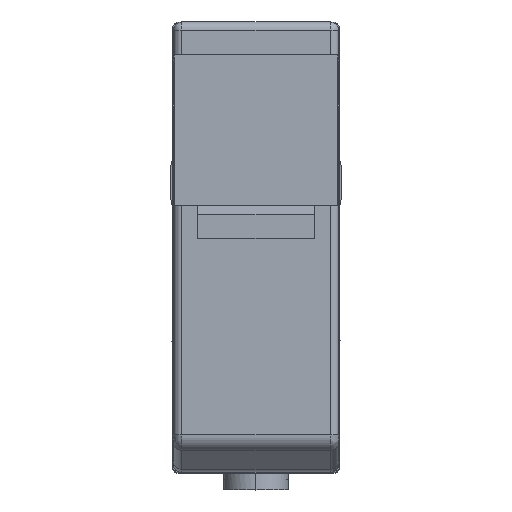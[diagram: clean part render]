
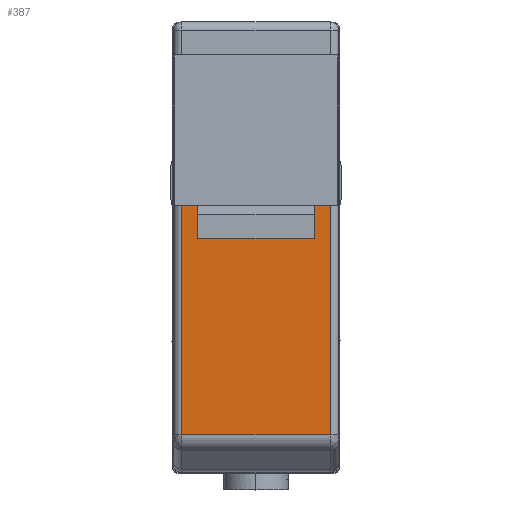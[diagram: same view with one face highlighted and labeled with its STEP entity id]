
A CAD part, top view. The second image highlights one B-rep face of the part: STEP entity #387.
In plain terms, the highlighted planar face has unit normal (0, 0, 1).
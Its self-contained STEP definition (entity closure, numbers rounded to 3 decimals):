
#387=ADVANCED_FACE('',(#1770),#1769,.F.);
#1769=PLANE('',#3663);
#1770=FACE_OUTER_BOUND('',#3664,.T.);
#3660=CARTESIAN_POINT('',(5.34,-26.283,27.4));
#3661=DIRECTION('',(0.,0.,-1.));
#3662=DIRECTION('',(-1.,0.,0.));
#3663=AXIS2_PLACEMENT_3D('',#3660,#3661,#3662);
#3664=EDGE_LOOP('',(#4938,#4939,#4940,#4941,#4942,#4943,#4944,#4945));
#4938=ORIENTED_EDGE('',*,*,#5809,.F.);
#4939=ORIENTED_EDGE('',*,*,#5816,.T.);
#4940=ORIENTED_EDGE('',*,*,#5817,.T.);
#4941=ORIENTED_EDGE('',*,*,#5818,.T.);
#4942=ORIENTED_EDGE('',*,*,#5801,.F.);
#4943=ORIENTED_EDGE('',*,*,#5737,.F.);
#4944=ORIENTED_EDGE('',*,*,#5746,.F.);
#4945=ORIENTED_EDGE('',*,*,#5739,.T.);
#5737=EDGE_CURVE('',#7815,#7800,#7822,.T.);
#5739=EDGE_CURVE('',#7836,#7829,#7837,.T.);
#5746=EDGE_CURVE('',#7836,#7815,#7882,.T.);
#5801=EDGE_CURVE('',#7800,#8252,#8253,.T.);
#5809=EDGE_CURVE('',#8299,#7829,#8306,.T.);
#5816=EDGE_CURVE('',#8299,#8352,#8353,.T.);
#5817=EDGE_CURVE('',#8352,#8359,#8360,.T.);
#5818=EDGE_CURVE('',#8359,#8252,#8366,.T.);
#7800=VERTEX_POINT('',#11000);
#7815=VERTEX_POINT('',#11009);
#7822=LINE('',#11013,#11014);
#7829=VERTEX_POINT('',#11017);
#7836=VERTEX_POINT('',#11021);
#7837=LINE('',#11022,#11023);
#7882=LINE('',#11046,#11047);
#8252=VERTEX_POINT('',#11255);
#8253=LINE('',#11256,#11257);
#8299=VERTEX_POINT('',#11282);
#8306=LINE('',#11287,#11288);
#8352=VERTEX_POINT('',#11312);
#8353=LINE('',#11313,#11314);
#8359=VERTEX_POINT('',#11316);
#8360=LINE('',#11317,#11318);
#8366=LINE('',#11320,#11321);
#11000=CARTESIAN_POINT('',(4.,-11.,27.4));
#11009=CARTESIAN_POINT('',(4.,-9.5,27.4));
#11013=CARTESIAN_POINT('',(4.,-9.5,27.4));
#11014=VECTOR('',#11015,1.5);
#11015=DIRECTION('',(0.,-1.,0.));
#11017=CARTESIAN_POINT('',(-4.,-11.,27.4));
#11021=CARTESIAN_POINT('',(-4.,-9.5,27.4));
#11022=CARTESIAN_POINT('',(-4.,-9.5,27.4));
#11023=VECTOR('',#11024,1.5);
#11024=DIRECTION('',(0.,-1.,0.));
#11046=CARTESIAN_POINT('',(-4.,-9.5,27.4));
#11047=VECTOR('',#11048,8.);
#11048=DIRECTION('',(1.,0.,0.));
#11255=CARTESIAN_POINT('',(4.45,-11.,27.4));
#11256=CARTESIAN_POINT('',(4.,-11.,27.4));
#11257=VECTOR('',#11258,0.45);
#11258=DIRECTION('',(1.,0.,0.));
#11282=CARTESIAN_POINT('',(-4.45,-11.,27.4));
#11287=CARTESIAN_POINT('',(-4.45,-11.,27.4));
#11288=VECTOR('',#11289,0.45);
#11289=DIRECTION('',(1.,0.,0.));
#11312=CARTESIAN_POINT('',(-4.45,-24.758,27.4));
#11313=CARTESIAN_POINT('',(-4.45,-11.,27.4));
#11314=VECTOR('',#11315,13.758);
#11315=DIRECTION('',(0.,-1.,0.));
#11316=CARTESIAN_POINT('',(4.45,-24.758,27.4));
#11317=CARTESIAN_POINT('',(-4.45,-24.758,27.4));
#11318=VECTOR('',#11319,8.9);
#11319=DIRECTION('',(1.,0.,0.));
#11320=CARTESIAN_POINT('',(4.45,-24.758,27.4));
#11321=VECTOR('',#11322,13.758);
#11322=DIRECTION('',(0.,1.,0.));
